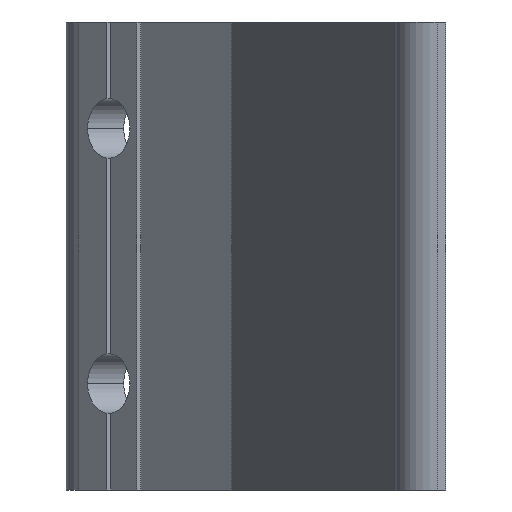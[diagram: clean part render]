
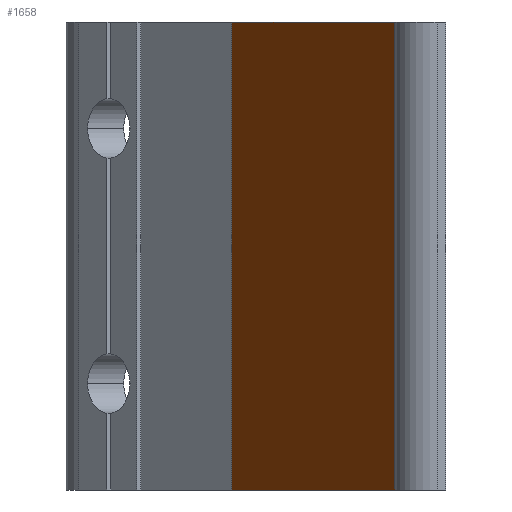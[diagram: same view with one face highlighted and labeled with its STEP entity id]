
A CAD part, left-side view. The second image highlights one B-rep face of the part: STEP entity #1658.
In plain terms, the highlighted planar face has unit normal (-0.383, 0.924, 0).
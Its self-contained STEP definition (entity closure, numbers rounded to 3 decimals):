
#7 = CARTESIAN_POINT ( 'NONE',  ( -6.448, 15.567, 27.5 ) ) ;
#15 = PLANE ( 'NONE',  #607 ) ;
#17 = DIRECTION ( 'NONE',  ( 0.383, -0.924, 0. ) ) ;
#18 = DIRECTION ( 'NONE',  ( 0.924, 0.383, 0. ) ) ;
#134 = CARTESIAN_POINT ( 'NONE',  ( -29.546, 6., 27.5 ) ) ;
#139 = CARTESIAN_POINT ( 'NONE',  ( -29.546, 6., -27.5 ) ) ;
#169 = CARTESIAN_POINT ( 'NONE',  ( 16.649, 25.135, 27.5 ) ) ;
#203 = CARTESIAN_POINT ( 'NONE',  ( 16.649, 25.135, -27.5 ) ) ;
#371 = EDGE_CURVE ( 'NONE', #2178, #2080, #2404, .T. ) ;
#504 = EDGE_CURVE ( 'NONE', #2178, #2285, #2425, .T. ) ;
#524 = EDGE_CURVE ( 'NONE', #2080, #2094, #2166, .T. ) ;
#556 = EDGE_CURVE ( 'NONE', #2285, #2094, #2418, .T. ) ;
#607 = AXIS2_PLACEMENT_3D ( 'NONE', #7, #17, #18 ) ;
#672 = DIRECTION ( 'NONE',  ( 0., 0., -1. ) ) ;
#868 = DIRECTION ( 'NONE',  ( -0.924, -0.383, 0. ) ) ;
#897 = CARTESIAN_POINT ( 'NONE',  ( -29.546, 6., 27.5 ) ) ;
#1029 = CARTESIAN_POINT ( 'NONE',  ( -6.448, 15.567, 27.5 ) ) ;
#1078 = DIRECTION ( 'NONE',  ( -0.924, -0.383, 0. ) ) ;
#1092 = CARTESIAN_POINT ( 'NONE',  ( 16.649, 25.135, 27.5 ) ) ;
#1099 = CARTESIAN_POINT ( 'NONE',  ( -6.448, 15.567, -27.5 ) ) ;
#1118 = DIRECTION ( 'NONE',  ( 0., 0., -1. ) ) ;
#1595 = EDGE_LOOP ( 'NONE', ( #1991, #2061, #2263, #2182 ) ) ;
#1658 = ADVANCED_FACE ( 'NONE', ( #1806 ), #15, .F. ) ;
#1785 = VECTOR ( 'NONE', #672, 1000. ) ;
#1806 = FACE_OUTER_BOUND ( 'NONE', #1595, .T. ) ;
#1872 = VECTOR ( 'NONE', #1078, 1000. ) ;
#1991 = ORIENTED_EDGE ( 'NONE', *, *, #556, .T. ) ;
#2061 = ORIENTED_EDGE ( 'NONE', *, *, #524, .F. ) ;
#2080 = VERTEX_POINT ( 'NONE', #134 ) ;
#2094 = VERTEX_POINT ( 'NONE', #139 ) ;
#2166 = LINE ( 'NONE', #897, #1785 ) ;
#2178 = VERTEX_POINT ( 'NONE', #169 ) ;
#2182 = ORIENTED_EDGE ( 'NONE', *, *, #504, .T. ) ;
#2254 = VECTOR ( 'NONE', #1118, 1000. ) ;
#2263 = ORIENTED_EDGE ( 'NONE', *, *, #371, .F. ) ;
#2264 = VECTOR ( 'NONE', #868, 1000. ) ;
#2285 = VERTEX_POINT ( 'NONE', #203 ) ;
#2404 = LINE ( 'NONE', #1029, #2264 ) ;
#2418 = LINE ( 'NONE', #1099, #1872 ) ;
#2425 = LINE ( 'NONE', #1092, #2254 ) ;
